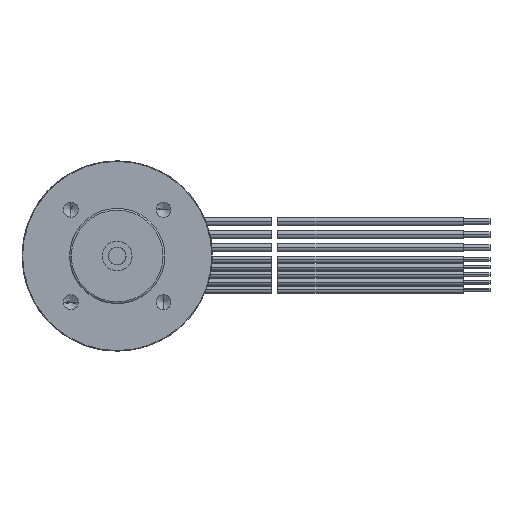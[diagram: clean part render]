
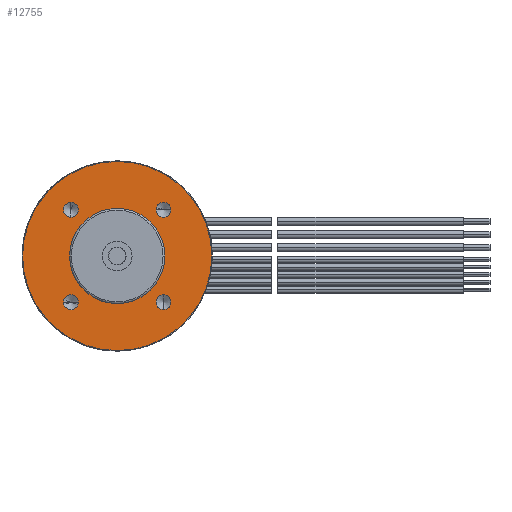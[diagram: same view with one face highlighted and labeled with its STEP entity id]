
A CAD part, left-side view. The second image highlights one B-rep face of the part: STEP entity #12755.
In plain terms, the highlighted planar face has unit normal (-1, 0, 0).
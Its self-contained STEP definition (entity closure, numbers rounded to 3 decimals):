
#2297=CARTESIAN_POINT('',(19.4,0.,0.));
#2298=DIRECTION('',(1.,0.,0.));
#2299=DIRECTION('',(0.,1.,0.));
#2300=AXIS2_PLACEMENT_3D('',#2297,#2298,#2299);
#2305=CARTESIAN_POINT('',(19.4,0.,0.));
#2306=DIRECTION('',(-1.,0.,0.));
#2307=DIRECTION('',(0.,1.,0.));
#2308=AXIS2_PLACEMENT_3D('',#2305,#2306,#2307);
#2313=CARTESIAN_POINT('',(19.4,7.778,-7.778));
#2314=DIRECTION('',(-1.,0.,0.));
#2315=DIRECTION('',(0.,1.,0.));
#2316=AXIS2_PLACEMENT_3D('',#2313,#2314,#2315);
#2321=CARTESIAN_POINT('',(19.4,7.778,-7.778));
#2322=DIRECTION('',(-1.,0.,0.));
#2323=DIRECTION('',(0.,-1.,0.));
#2324=AXIS2_PLACEMENT_3D('',#2321,#2322,#2323);
#2329=CARTESIAN_POINT('',(19.4,7.778,7.778));
#2330=DIRECTION('',(-1.,0.,0.));
#2331=DIRECTION('',(0.,0.,1.));
#2332=AXIS2_PLACEMENT_3D('',#2329,#2330,#2331);
#2337=CARTESIAN_POINT('',(19.4,7.778,7.778));
#2338=DIRECTION('',(-1.,0.,0.));
#2339=DIRECTION('',(0.,0.,-1.));
#2340=AXIS2_PLACEMENT_3D('',#2337,#2338,#2339);
#2345=CARTESIAN_POINT('',(19.4,-7.778,7.778));
#2346=DIRECTION('',(-1.,0.,0.));
#2347=DIRECTION('',(0.,-1.,0.));
#2348=AXIS2_PLACEMENT_3D('',#2345,#2346,#2347);
#2353=CARTESIAN_POINT('',(19.4,-7.778,7.778));
#2354=DIRECTION('',(-1.,0.,0.));
#2355=DIRECTION('',(0.,1.,0.));
#2356=AXIS2_PLACEMENT_3D('',#2353,#2354,#2355);
#2361=CARTESIAN_POINT('',(19.4,-7.778,-7.778));
#2362=DIRECTION('',(-1.,0.,0.));
#2363=DIRECTION('',(0.,0.,-1.));
#2364=AXIS2_PLACEMENT_3D('',#2361,#2362,#2363);
#2369=CARTESIAN_POINT('',(19.4,-7.778,-7.778));
#2370=DIRECTION('',(-1.,0.,0.));
#2371=DIRECTION('',(0.,0.,1.));
#2372=AXIS2_PLACEMENT_3D('',#2369,#2370,#2371);
#2377=CARTESIAN_POINT('',(19.4,0.,0.));
#2378=DIRECTION('',(-1.,0.,0.));
#2379=DIRECTION('',(0.,1.,0.));
#2380=AXIS2_PLACEMENT_3D('',#2377,#2378,#2379);
#2392=CARTESIAN_POINT('',(19.4,0.,0.));
#2393=DIRECTION('',(1.,0.,0.));
#2394=DIRECTION('',(0.,1.,0.));
#2395=AXIS2_PLACEMENT_3D('',#2392,#2393,#2394);
#8887=CARTESIAN_POINT('',(19.4,15.9,0.));
#8889=VERTEX_POINT('',#8887);
#8890=CARTESIAN_POINT('',(19.4,8.,0.));
#8892=VERTEX_POINT('',#8890);
#8911=CARTESIAN_POINT('',(19.4,-15.9,0.));
#8913=VERTEX_POINT('',#8911);
#8914=CARTESIAN_POINT('',(19.4,-8.,0.));
#8916=VERTEX_POINT('',#8914);
#10032=CARTESIAN_POINT('',(19.4,9.028,-7.778));
#10033=CARTESIAN_POINT('',(19.4,6.528,-7.778));
#10034=VERTEX_POINT('',#10032);
#10035=VERTEX_POINT('',#10033);
#10036=CARTESIAN_POINT('',(19.4,7.778,9.028));
#10037=CARTESIAN_POINT('',(19.4,7.778,6.528));
#10038=VERTEX_POINT('',#10036);
#10039=VERTEX_POINT('',#10037);
#10040=CARTESIAN_POINT('',(19.4,-9.028,7.778));
#10041=CARTESIAN_POINT('',(19.4,-6.528,7.778));
#10042=VERTEX_POINT('',#10040);
#10043=VERTEX_POINT('',#10041);
#10044=CARTESIAN_POINT('',(19.4,-7.778,-9.028));
#10045=CARTESIAN_POINT('',(19.4,-7.778,-6.528));
#10046=VERTEX_POINT('',#10044);
#10047=VERTEX_POINT('',#10045);
#12716=CARTESIAN_POINT('',(19.4,0.,0.));
#12717=DIRECTION('',(-1.,0.,0.));
#12718=DIRECTION('',(0.,1.,0.));
#12719=AXIS2_PLACEMENT_3D('',#12716,#12717,#12718);
#12720=PLANE('',#12719);
#12721=ORIENTED_EDGE('',*,*,#12699,.T.);
#12722=ORIENTED_EDGE('',*,*,#12671,.F.);
#12723=EDGE_LOOP('',(#12721,#12722));
#12724=FACE_OUTER_BOUND('',#12723,.F.);
#12726=ORIENTED_EDGE('',*,*,#12725,.T.);
#12728=ORIENTED_EDGE('',*,*,#12727,.F.);
#12729=EDGE_LOOP('',(#12726,#12728));
#12730=FACE_BOUND('',#12729,.F.);
#12732=ORIENTED_EDGE('',*,*,#12731,.T.);
#12734=ORIENTED_EDGE('',*,*,#12733,.T.);
#12735=EDGE_LOOP('',(#12732,#12734));
#12736=FACE_BOUND('',#12735,.F.);
#12738=ORIENTED_EDGE('',*,*,#12737,.T.);
#12740=ORIENTED_EDGE('',*,*,#12739,.T.);
#12741=EDGE_LOOP('',(#12738,#12740));
#12742=FACE_BOUND('',#12741,.F.);
#12744=ORIENTED_EDGE('',*,*,#12743,.T.);
#12746=ORIENTED_EDGE('',*,*,#12745,.T.);
#12747=EDGE_LOOP('',(#12744,#12746));
#12748=FACE_BOUND('',#12747,.F.);
#12750=ORIENTED_EDGE('',*,*,#12749,.T.);
#12752=ORIENTED_EDGE('',*,*,#12751,.T.);
#12753=EDGE_LOOP('',(#12750,#12752));
#12754=FACE_BOUND('',#12753,.F.);
#12755=ADVANCED_FACE('',(#12724,#12730,#12736,#12742,#12748,#12754),#12720,.T.);
#2301=CIRCLE('',#2300,15.9);
#2309=CIRCLE('',#2308,15.9);
#2317=CIRCLE('',#2316,1.25);
#2325=CIRCLE('',#2324,1.25);
#2333=CIRCLE('',#2332,1.25);
#2341=CIRCLE('',#2340,1.25);
#2349=CIRCLE('',#2348,1.25);
#2357=CIRCLE('',#2356,1.25);
#2365=CIRCLE('',#2364,1.25);
#2373=CIRCLE('',#2372,1.25);
#2381=CIRCLE('',#2380,8.);
#2396=CIRCLE('',#2395,8.);
#12671=EDGE_CURVE('',#8889,#8913,#2309,.T.);
#12699=EDGE_CURVE('',#8889,#8913,#2301,.T.);
#12725=EDGE_CURVE('',#8892,#8916,#2381,.T.);
#12727=EDGE_CURVE('',#8892,#8916,#2396,.T.);
#12731=EDGE_CURVE('',#10034,#10035,#2317,.T.);
#12733=EDGE_CURVE('',#10035,#10034,#2325,.T.);
#12737=EDGE_CURVE('',#10038,#10039,#2333,.T.);
#12739=EDGE_CURVE('',#10039,#10038,#2341,.T.);
#12743=EDGE_CURVE('',#10042,#10043,#2349,.T.);
#12745=EDGE_CURVE('',#10043,#10042,#2357,.T.);
#12749=EDGE_CURVE('',#10046,#10047,#2365,.T.);
#12751=EDGE_CURVE('',#10047,#10046,#2373,.T.);
